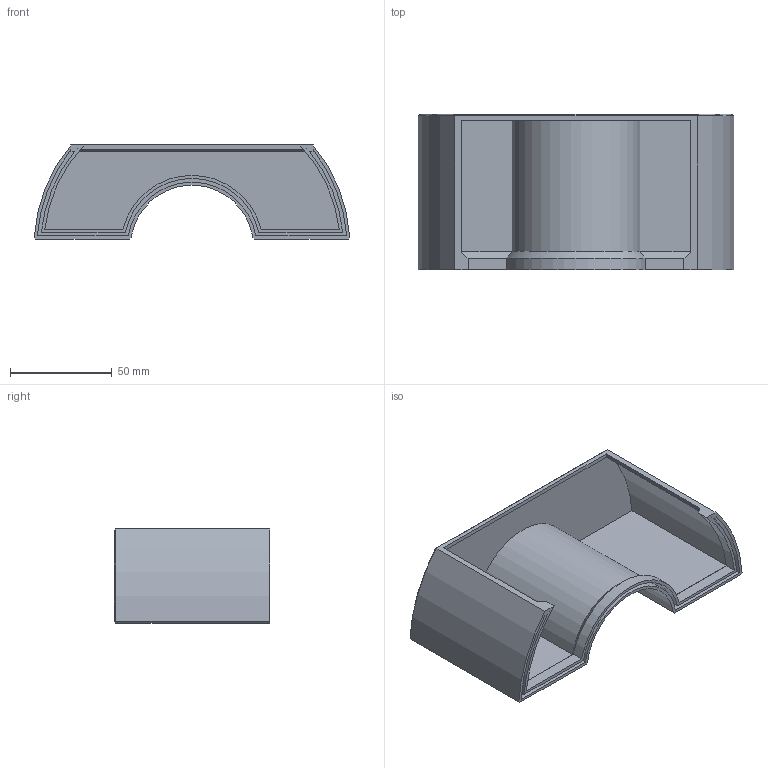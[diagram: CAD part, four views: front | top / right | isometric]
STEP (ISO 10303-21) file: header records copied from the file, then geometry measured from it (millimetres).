
FILE_DESCRIPTION(/* description */ (''),/* implementation_level */ '2;1');
FILE_NAME(/* name */ 'PokemonDrawers v1-drawer1a.step',/* time_stamp */ '2024-06-08T15:37:43+02:00',/* author */ (''),/* organization */ (''),/* preprocessor_version */ 'ST-DEVELOPER v20',/* originating_system */ 'Autodesk Translation Framework v13.14.0.145',/* authorisation */ '');
FILE_SCHEMA (('AUTOMOTIVE_DESIGN { 1 0 10303 214 3 1 1 }'));
Length unit declared in the file: millimetre
Products named in the file (2): PokemonDrawers; Component2
Assembly tree (1 placements, depth 2):
  PokemonDrawers
    Component2
Bounding box: 155.24 x 76.5 x 46.25 mm (x, y, z)
Volume: 44867.6 mm3; surface area: 58154.2 mm2
Topology: 1 solids, 1 shells, 71 faces, 172 edges, 106 vertices
Faces by surface type: plane 48, cylinder 17, cone 6
Entity records: 2080 total; most frequent: CARTESIAN_POINT 398, ORIENTED_EDGE 344, DIRECTION 337, EDGE_CURVE 172, LINE 115, VECTOR 115, AXIS2_PLACEMENT_3D 111, VERTEX_POINT 106
